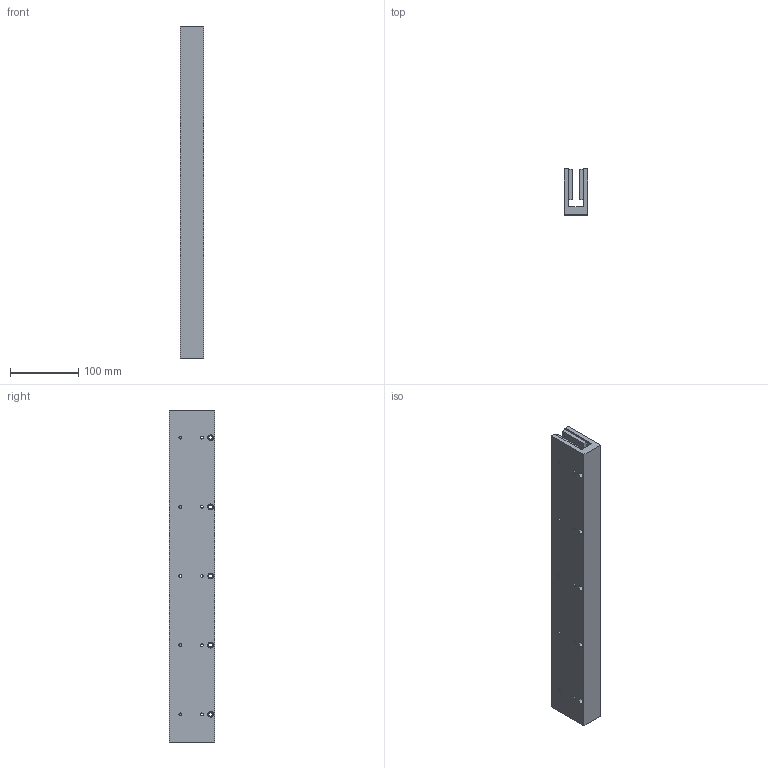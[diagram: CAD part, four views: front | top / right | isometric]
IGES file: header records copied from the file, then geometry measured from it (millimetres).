
Global section: file name: No Iges File Name specified; native system: Autodesk Inventor 2009; preprocessor: AutoDesk Inventor Iges Exporter R2009; author: je17857; date: 20091116.111500; units: inch
Bounding box: 34.29 x 67.31 x 487.68 mm (x, y, z)
Volume: 728860.5 mm3; surface area: 184994 mm2
Topology: 1 solids, 1 shells, 258 faces, 618 edges, 412 vertices
Faces by surface type: plane 178, bspline 80
